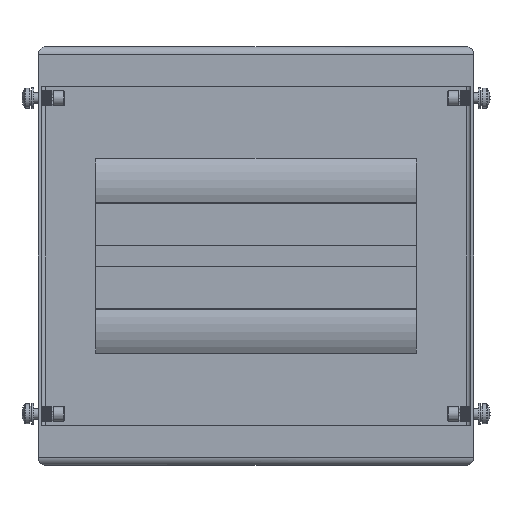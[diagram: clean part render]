
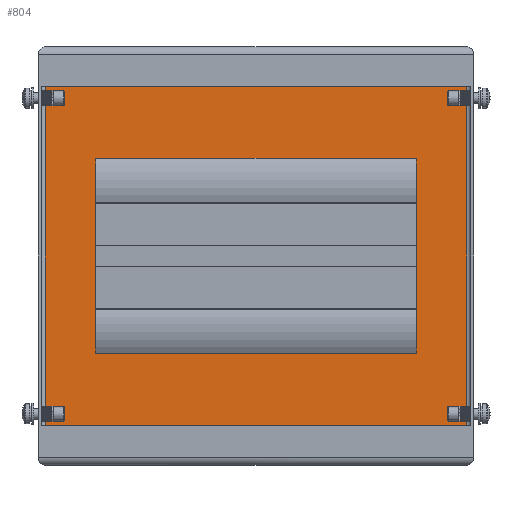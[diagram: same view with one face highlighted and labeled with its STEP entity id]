
A CAD part, left-side view. The second image highlights one B-rep face of the part: STEP entity #804.
In plain terms, the highlighted planar face has unit normal (-1, 0, 0).
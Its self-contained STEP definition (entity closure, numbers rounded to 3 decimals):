
#804=ADVANCED_FACE('',(#1127,#1129),#1131,.F.);
#1127=FACE_BOUND('',#1128,.T.);
#1128=EDGE_LOOP('',(#3662,#3663,#3664,#3665));
#1129=FACE_BOUND('',#1130,.T.);
#1130=EDGE_LOOP('',(#3666,#3667,#3668,#3669));
#1131=PLANE('',#1132);
#1132=AXIS2_PLACEMENT_3D('',#1133,#1134,#1135);
#1133=CARTESIAN_POINT('',(-1.5,0.,0.));
#1134=DIRECTION('',(1.,0.,0.));
#1135=DIRECTION('',(0.,1.,0.));
#3662=ORIENTED_EDGE('',*,*,#4682,.F.);
#3663=ORIENTED_EDGE('',*,*,#4683,.F.);
#3664=ORIENTED_EDGE('',*,*,#4684,.F.);
#3665=ORIENTED_EDGE('',*,*,#4685,.F.);
#3666=ORIENTED_EDGE('',*,*,#4686,.T.);
#3667=ORIENTED_EDGE('',*,*,#4687,.T.);
#3668=ORIENTED_EDGE('',*,*,#4688,.T.);
#3669=ORIENTED_EDGE('',*,*,#4689,.T.);
#4682=EDGE_CURVE('',#5200,#5201,#5202,.T.);
#4683=EDGE_CURVE('',#5203,#5200,#5204,.T.);
#4684=EDGE_CURVE('',#5205,#5203,#5206,.T.);
#4685=EDGE_CURVE('',#5201,#5205,#5207,.T.);
#4686=EDGE_CURVE('',#5208,#5209,#5210,.T.);
#4687=EDGE_CURVE('',#5209,#5211,#5212,.T.);
#4688=EDGE_CURVE('',#5211,#5213,#5214,.T.);
#4689=EDGE_CURVE('',#5213,#5208,#5215,.T.);
#5200=VERTEX_POINT('',#6065);
#5201=VERTEX_POINT('',#6066);
#5202=LINE('',#6067,#6068);
#5203=VERTEX_POINT('',#6070);
#5204=LINE('',#6071,#6072);
#5205=VERTEX_POINT('',#6074);
#5206=LINE('',#6075,#6076);
#5207=LINE('',#6078,#6079);
#5208=VERTEX_POINT('',#6081);
#5209=VERTEX_POINT('',#6082);
#5210=LINE('',#6083,#6084);
#5211=VERTEX_POINT('',#6086);
#5212=LINE('',#6087,#6088);
#5213=VERTEX_POINT('',#6090);
#5214=LINE('',#6091,#6092);
#5215=LINE('',#6094,#6095);
#6065=CARTESIAN_POINT('',(-1.5,100.,96.));
#6066=CARTESIAN_POINT('',(-1.5,-100.,96.));
#6067=CARTESIAN_POINT('',(-1.5,100.,96.));
#6068=VECTOR('',#6069,1.);
#6069=DIRECTION('',(0.,-1.,0.));
#6070=CARTESIAN_POINT('',(-1.5,100.,-96.));
#6071=CARTESIAN_POINT('',(-1.5,100.,-96.));
#6072=VECTOR('',#6073,1.);
#6073=DIRECTION('',(0.,0.,1.));
#6074=CARTESIAN_POINT('',(-1.5,-100.,-96.));
#6075=CARTESIAN_POINT('',(-1.5,-100.,-96.));
#6076=VECTOR('',#6077,1.);
#6077=DIRECTION('',(0.,1.,0.));
#6078=CARTESIAN_POINT('',(-1.5,-100.,96.));
#6079=VECTOR('',#6080,1.);
#6080=DIRECTION('',(0.,0.,-1.));
#6081=CARTESIAN_POINT('',(-1.5,-76.,-37.5));
#6082=CARTESIAN_POINT('',(-1.5,76.,-37.5));
#6083=CARTESIAN_POINT('',(-1.5,-76.,-37.5));
#6084=VECTOR('',#6085,1.);
#6085=DIRECTION('',(0.,1.,0.));
#6086=CARTESIAN_POINT('',(-1.5,76.,37.5));
#6087=CARTESIAN_POINT('',(-1.5,76.,-37.5));
#6088=VECTOR('',#6089,1.);
#6089=DIRECTION('',(0.,0.,1.));
#6090=CARTESIAN_POINT('',(-1.5,-76.,37.5));
#6091=CARTESIAN_POINT('',(-1.5,76.,37.5));
#6092=VECTOR('',#6093,1.);
#6093=DIRECTION('',(0.,-1.,0.));
#6094=CARTESIAN_POINT('',(-1.5,-76.,37.5));
#6095=VECTOR('',#6096,1.);
#6096=DIRECTION('',(0.,0.,-1.));
